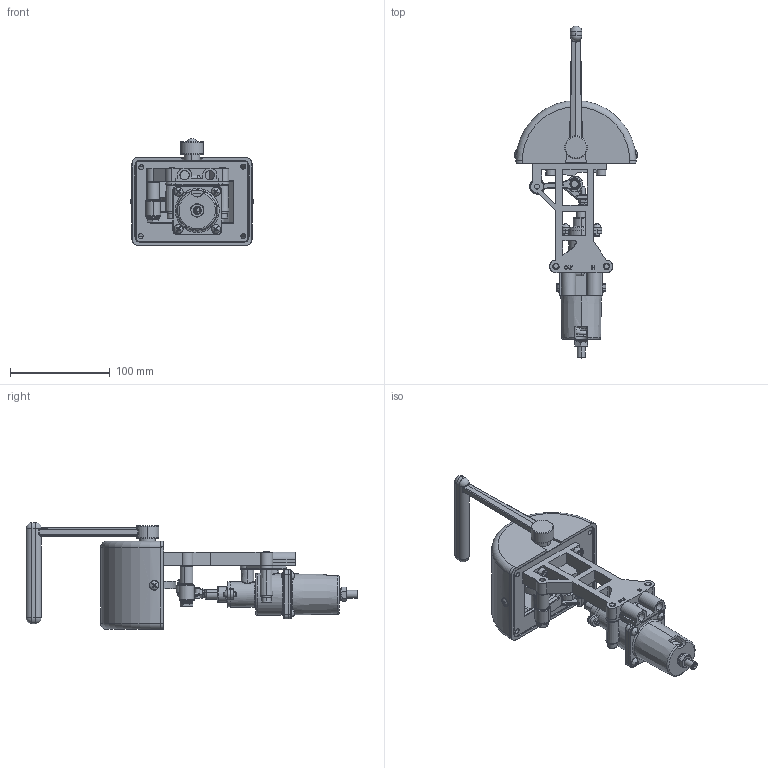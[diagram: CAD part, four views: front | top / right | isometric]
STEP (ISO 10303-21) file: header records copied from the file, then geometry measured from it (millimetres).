
FILE_DESCRIPTION (( 'STEP AP214' ), '1' );
FILE_NAME ('2542-XCXX.STEP', '2025-02-14T00:38:05', ( '' ), ( '' ), 'SwSTEP 2.0', 'SolidWorks 2023', '' );
FILE_SCHEMA (( 'AUTOMOTIVE_DESIGN' ));
Products named in the file (1): 2542-XCXX
Bounding box: 123.72 x 333.56 x 107.41 mm (x, y, z)
Surface area: 159602.5 mm2 (no closed solid volume)
Topology: 0 solids, 54 shells, 794 faces, 2454 edges, 1676 vertices
Faces by surface type: plane 312, cylinder 211, cone 115, torus 85, bspline 65, sphere 6
Entity records: 35194 total; most frequent: CARTESIAN_POINT 14317, DIRECTION 4300, ORIENTED_EDGE 4021, EDGE_CURVE 2441, VERTEX_POINT 1673, AXIS2_PLACEMENT_3D 1614, VECTOR 1072, LINE 1072
